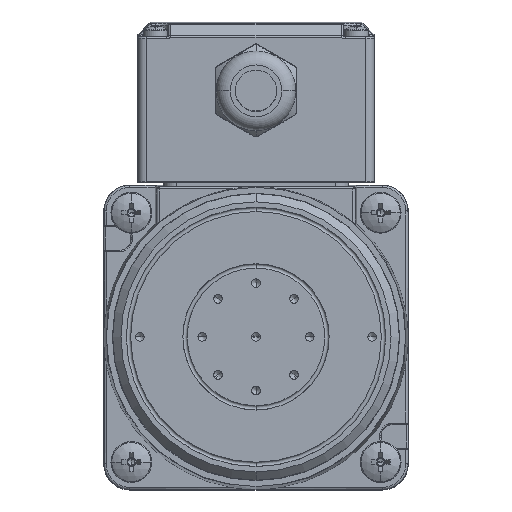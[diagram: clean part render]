
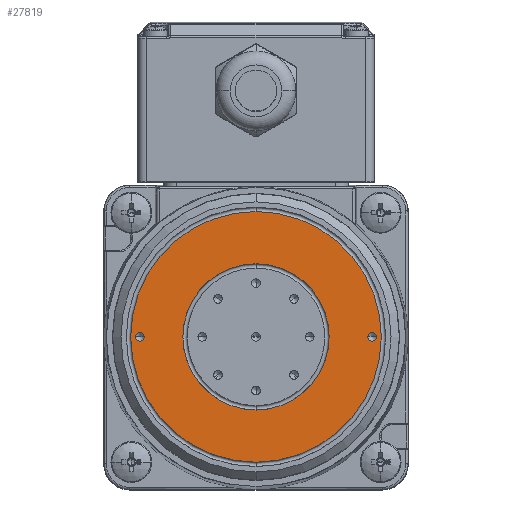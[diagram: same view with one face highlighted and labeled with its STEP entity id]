
A CAD part, top view. The second image highlights one B-rep face of the part: STEP entity #27819.
In plain terms, the highlighted planar face has unit normal (0, 0, 1).
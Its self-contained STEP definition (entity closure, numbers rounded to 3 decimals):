
#538 = ORIENTED_EDGE ( 'NONE', *, *, #34849, .F. ) ;
#1133 = AXIS2_PLACEMENT_3D ( 'NONE', #9801, #23885, #20328 ) ;
#1230 = DIRECTION ( 'NONE',  ( -1., 0., 0. ) ) ;
#1270 = DIRECTION ( 'NONE',  ( 1., 0., 0. ) ) ;
#1437 = AXIS2_PLACEMENT_3D ( 'NONE', #25715, #39829, #3526 ) ;
#1471 = CIRCLE ( 'NONE', #28142, 17.01 ) ;
#2034 = AXIS2_PLACEMENT_3D ( 'NONE', #15805, #4811, #1230 ) ;
#2993 = CARTESIAN_POINT ( 'NONE',  ( -26., 0., 79.75 ) ) ;
#3526 = DIRECTION ( 'NONE',  ( 0., -1., 0. ) ) ;
#3977 = AXIS2_PLACEMENT_3D ( 'NONE', #33999, #34706, #1270 ) ;
#4548 = AXIS2_PLACEMENT_3D ( 'NONE', #28827, #14055, #46564 ) ;
#4756 = CIRCLE ( 'NONE', #3977, 1. ) ;
#4811 = DIRECTION ( 'NONE',  ( 0., 0., 1. ) ) ;
#4900 = CARTESIAN_POINT ( 'NONE',  ( 0., 0., 79.75 ) ) ;
#5111 = EDGE_LOOP ( 'NONE', ( #15315, #20212 ) ) ;
#6060 = VERTEX_POINT ( 'NONE', #47107 ) ;
#7236 = ORIENTED_EDGE ( 'NONE', *, *, #7868, .F. ) ;
#7691 = ORIENTED_EDGE ( 'NONE', *, *, #35219, .F. ) ;
#7868 = EDGE_CURVE ( 'NONE', #17384, #26978, #34160, .T. ) ;
#8734 = DIRECTION ( 'NONE',  ( 0., 1., 0. ) ) ;
#8877 = FACE_BOUND ( 'NONE', #24782, .T. ) ;
#9104 = DIRECTION ( 'NONE',  ( 0., -1., 0. ) ) ;
#9801 = CARTESIAN_POINT ( 'NONE',  ( -27., 0., 79.75 ) ) ;
#9937 = DIRECTION ( 'NONE',  ( 0., -1., 0. ) ) ;
#12714 = CIRCLE ( 'NONE', #2034, 1. ) ;
#12922 = FACE_BOUND ( 'NONE', #36246, .T. ) ;
#13630 = ORIENTED_EDGE ( 'NONE', *, *, #18046, .F. ) ;
#14055 = DIRECTION ( 'NONE',  ( 0., 0., 1. ) ) ;
#14142 = VERTEX_POINT ( 'NONE', #27639 ) ;
#14437 = CIRCLE ( 'NONE', #1437, 29.15 ) ;
#15315 = ORIENTED_EDGE ( 'NONE', *, *, #26277, .F. ) ;
#15805 = CARTESIAN_POINT ( 'NONE',  ( 27., 0., 79.75 ) ) ;
#15945 = VERTEX_POINT ( 'NONE', #28028 ) ;
#16610 = AXIS2_PLACEMENT_3D ( 'NONE', #4900, #34052, #8734 ) ;
#17384 = VERTEX_POINT ( 'NONE', #26163 ) ;
#18046 = EDGE_CURVE ( 'NONE', #35144, #44807, #45418, .T. ) ;
#19258 = AXIS2_PLACEMENT_3D ( 'NONE', #38001, #20102, #9104 ) ;
#20102 = DIRECTION ( 'NONE',  ( 0., 0., -1. ) ) ;
#20212 = ORIENTED_EDGE ( 'NONE', *, *, #20679, .F. ) ;
#20278 = ORIENTED_EDGE ( 'NONE', *, *, #42945, .F. ) ;
#20328 = DIRECTION ( 'NONE',  ( 1., 0., 0. ) ) ;
#20679 = EDGE_CURVE ( 'NONE', #22238, #14142, #12714, .T. ) ;
#22088 = CIRCLE ( 'NONE', #28163, 17.01 ) ;
#22238 = VERTEX_POINT ( 'NONE', #23500 ) ;
#23433 = FACE_BOUND ( 'NONE', #5111, .T. ) ;
#23500 = CARTESIAN_POINT ( 'NONE',  ( 26., 0., 79.75 ) ) ;
#23885 = DIRECTION ( 'NONE',  ( 0., 0., 1. ) ) ;
#23893 = FACE_OUTER_BOUND ( 'NONE', #39843, .T. ) ;
#24782 = EDGE_LOOP ( 'NONE', ( #13630, #40053 ) ) ;
#25715 = CARTESIAN_POINT ( 'NONE',  ( 0., 0., 79.75 ) ) ;
#26163 = CARTESIAN_POINT ( 'NONE',  ( 0., 29.15, 79.75 ) ) ;
#26277 = EDGE_CURVE ( 'NONE', #14142, #22238, #4756, .T. ) ;
#26978 = VERTEX_POINT ( 'NONE', #45128 ) ;
#27240 = PLANE ( 'NONE',  #19258 ) ;
#27639 = CARTESIAN_POINT ( 'NONE',  ( 28., 0., 79.75 ) ) ;
#27819 = ADVANCED_FACE ( 'NONE', ( #23893, #12922, #8877, #23433 ), #27240, .F. ) ;
#28028 = CARTESIAN_POINT ( 'NONE',  ( 0., 17.01, 79.75 ) ) ;
#28114 = DIRECTION ( 'NONE',  ( 0., 1., 0. ) ) ;
#28142 = AXIS2_PLACEMENT_3D ( 'NONE', #39306, #35721, #9937 ) ;
#28163 = AXIS2_PLACEMENT_3D ( 'NONE', #38186, #34607, #28114 ) ;
#28827 = CARTESIAN_POINT ( 'NONE',  ( -27., 0., 79.75 ) ) ;
#33999 = CARTESIAN_POINT ( 'NONE',  ( 27., 0., 79.75 ) ) ;
#34052 = DIRECTION ( 'NONE',  ( 0., 0., -1. ) ) ;
#34160 = CIRCLE ( 'NONE', #16610, 29.15 ) ;
#34607 = DIRECTION ( 'NONE',  ( 0., 0., 1. ) ) ;
#34706 = DIRECTION ( 'NONE',  ( 0., 0., 1. ) ) ;
#34849 = EDGE_CURVE ( 'NONE', #26978, #17384, #14437, .T. ) ;
#35144 = VERTEX_POINT ( 'NONE', #2993 ) ;
#35219 = EDGE_CURVE ( 'NONE', #6060, #15945, #1471, .T. ) ;
#35721 = DIRECTION ( 'NONE',  ( 0., 0., 1. ) ) ;
#36246 = EDGE_LOOP ( 'NONE', ( #20278, #7691 ) ) ;
#38001 = CARTESIAN_POINT ( 'NONE',  ( 0., 0., 79.75 ) ) ;
#38186 = CARTESIAN_POINT ( 'NONE',  ( 0., 0., 79.75 ) ) ;
#39306 = CARTESIAN_POINT ( 'NONE',  ( 0., 0., 79.75 ) ) ;
#39829 = DIRECTION ( 'NONE',  ( 0., 0., -1. ) ) ;
#39843 = EDGE_LOOP ( 'NONE', ( #7236, #538 ) ) ;
#40053 = ORIENTED_EDGE ( 'NONE', *, *, #43051, .F. ) ;
#40580 = CARTESIAN_POINT ( 'NONE',  ( -28., 0., 79.75 ) ) ;
#42945 = EDGE_CURVE ( 'NONE', #15945, #6060, #22088, .T. ) ;
#43051 = EDGE_CURVE ( 'NONE', #44807, #35144, #45783, .T. ) ;
#44807 = VERTEX_POINT ( 'NONE', #40580 ) ;
#45128 = CARTESIAN_POINT ( 'NONE',  ( 0., -29.15, 79.75 ) ) ;
#45418 = CIRCLE ( 'NONE', #1133, 1. ) ;
#45783 = CIRCLE ( 'NONE', #4548, 1. ) ;
#46564 = DIRECTION ( 'NONE',  ( -1., 0., 0. ) ) ;
#47107 = CARTESIAN_POINT ( 'NONE',  ( 0., -17.01, 79.75 ) ) ;
